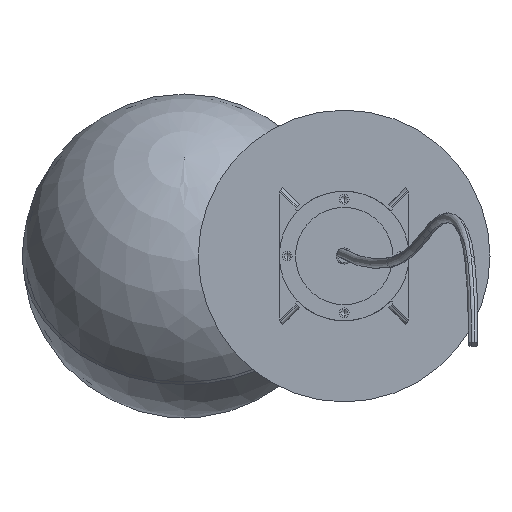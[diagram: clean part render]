
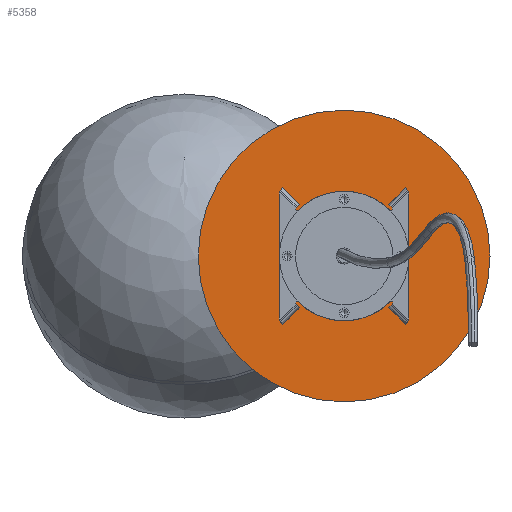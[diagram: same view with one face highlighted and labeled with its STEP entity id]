
A CAD part, front view. The second image highlights one B-rep face of the part: STEP entity #5358.
In plain terms, the highlighted planar face has unit normal (0, -1, 0) as drawn and (0, 1, 0) by its records, which use the part's own axes.
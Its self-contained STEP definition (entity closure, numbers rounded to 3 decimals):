
#172 = ORIENTED_EDGE ( 'NONE', *, *, #2223, .T. ) ;
#209 = DIRECTION ( 'NONE',  ( 0., 0., 1. ) ) ;
#242 = CIRCLE ( 'NONE', #6716, 7. ) ;
#436 = DIRECTION ( 'NONE',  ( 0., 1., 0. ) ) ;
#474 = DIRECTION ( 'NONE',  ( 0., 0., 1. ) ) ;
#481 = EDGE_CURVE ( 'NONE', #1131, #9960, #7671, .T. ) ;
#1073 = DIRECTION ( 'NONE',  ( 0., 0., 1. ) ) ;
#1111 = FACE_BOUND ( 'NONE', #3349, .T. ) ;
#1131 = VERTEX_POINT ( 'NONE', #4356 ) ;
#1170 = ORIENTED_EDGE ( 'NONE', *, *, #2969, .T. ) ;
#1681 = CARTESIAN_POINT ( 'NONE',  ( 0., 2., 7. ) ) ;
#1791 = CIRCLE ( 'NONE', #7585, 2.75 ) ;
#1973 = FACE_OUTER_BOUND ( 'NONE', #9264, .T. ) ;
#2061 = CARTESIAN_POINT ( 'NONE',  ( 0., 2., 90. ) ) ;
#2223 = EDGE_CURVE ( 'NONE', #5560, #10351, #9768, .T. ) ;
#2235 = DIRECTION ( 'NONE',  ( 0., 0., 1. ) ) ;
#2309 = ORIENTED_EDGE ( 'NONE', *, *, #481, .F. ) ;
#2634 = CARTESIAN_POINT ( 'NONE',  ( -35., 2., 2.75 ) ) ;
#2658 = CARTESIAN_POINT ( 'NONE',  ( 35., 2., 2.75 ) ) ;
#2969 = EDGE_CURVE ( 'NONE', #4323, #7097, #4830, .T. ) ;
#3159 = DIRECTION ( 'NONE',  ( 0., 1., 0. ) ) ;
#3160 = AXIS2_PLACEMENT_3D ( 'NONE', #7056, #10320, #9369 ) ;
#3349 = EDGE_LOOP ( 'NONE', ( #2309, #10081 ) ) ;
#3420 = ORIENTED_EDGE ( 'NONE', *, *, #4748, .F. ) ;
#3509 = CARTESIAN_POINT ( 'NONE',  ( 0., 2., -7. ) ) ;
#3554 = EDGE_LOOP ( 'NONE', ( #3420, #4235 ) ) ;
#3612 = DIRECTION ( 'NONE',  ( 0., 1., 0. ) ) ;
#3636 = DIRECTION ( 'NONE',  ( 0., -1., 0. ) ) ;
#3669 = CIRCLE ( 'NONE', #7744, 2.75 ) ;
#4039 = DIRECTION ( 'NONE',  ( 0., -1., 0. ) ) ;
#4137 = AXIS2_PLACEMENT_3D ( 'NONE', #6777, #436, #4549 ) ;
#4235 = ORIENTED_EDGE ( 'NONE', *, *, #7208, .F. ) ;
#4323 = VERTEX_POINT ( 'NONE', #1681 ) ;
#4356 = CARTESIAN_POINT ( 'NONE',  ( -35., 2., -2.75 ) ) ;
#4374 = FACE_BOUND ( 'NONE', #6526, .T. ) ;
#4549 = DIRECTION ( 'NONE',  ( 0., 0., 1. ) ) ;
#4695 = DIRECTION ( 'NONE',  ( 0., 1., 0. ) ) ;
#4748 = EDGE_CURVE ( 'NONE', #6059, #8953, #3669, .T. ) ;
#4830 = CIRCLE ( 'NONE', #8934, 7. ) ;
#4973 = EDGE_CURVE ( 'NONE', #10351, #5560, #6212, .T. ) ;
#5038 = CARTESIAN_POINT ( 'NONE',  ( 35., 2., 0. ) ) ;
#5273 = CARTESIAN_POINT ( 'NONE',  ( 0., 2., 0. ) ) ;
#5333 = CARTESIAN_POINT ( 'NONE',  ( -35., 2., 0. ) ) ;
#5358 = ADVANCED_FACE ( 'NONE', ( #4374, #8435, #1973, #1111 ), #7675, .T. ) ;
#5560 = VERTEX_POINT ( 'NONE', #10404 ) ;
#5682 = CARTESIAN_POINT ( 'NONE',  ( 0., 2., 0. ) ) ;
#6059 = VERTEX_POINT ( 'NONE', #8794 ) ;
#6131 = DIRECTION ( 'NONE',  ( 0., 0., 1. ) ) ;
#6136 = AXIS2_PLACEMENT_3D ( 'NONE', #6405, #3159, #2235 ) ;
#6173 = ORIENTED_EDGE ( 'NONE', *, *, #4973, .T. ) ;
#6212 = CIRCLE ( 'NONE', #3160, 90. ) ;
#6385 = ORIENTED_EDGE ( 'NONE', *, *, #6540, .T. ) ;
#6405 = CARTESIAN_POINT ( 'NONE',  ( -35., 2., 0. ) ) ;
#6526 = EDGE_LOOP ( 'NONE', ( #1170, #6385 ) ) ;
#6540 = EDGE_CURVE ( 'NONE', #7097, #4323, #242, .T. ) ;
#6716 = AXIS2_PLACEMENT_3D ( 'NONE', #7625, #3636, #209 ) ;
#6777 = CARTESIAN_POINT ( 'NONE',  ( 0., 2., 0. ) ) ;
#7056 = CARTESIAN_POINT ( 'NONE',  ( 0., 2., 0. ) ) ;
#7097 = VERTEX_POINT ( 'NONE', #3509 ) ;
#7208 = EDGE_CURVE ( 'NONE', #8953, #6059, #10489, .T. ) ;
#7585 = AXIS2_PLACEMENT_3D ( 'NONE', #5333, #4695, #6131 ) ;
#7625 = CARTESIAN_POINT ( 'NONE',  ( 0., 2., 0. ) ) ;
#7671 = CIRCLE ( 'NONE', #6136, 2.75 ) ;
#7675 = PLANE ( 'NONE',  #9641 ) ;
#7744 = AXIS2_PLACEMENT_3D ( 'NONE', #5038, #8302, #1073 ) ;
#7879 = EDGE_CURVE ( 'NONE', #9960, #1131, #1791, .T. ) ;
#7927 = AXIS2_PLACEMENT_3D ( 'NONE', #8626, #3612, #10013 ) ;
#8302 = DIRECTION ( 'NONE',  ( 0., 1., 0. ) ) ;
#8435 = FACE_BOUND ( 'NONE', #3554, .T. ) ;
#8540 = DIRECTION ( 'NONE',  ( 0., 1., 0. ) ) ;
#8626 = CARTESIAN_POINT ( 'NONE',  ( 35., 2., 0. ) ) ;
#8794 = CARTESIAN_POINT ( 'NONE',  ( 35., 2., -2.75 ) ) ;
#8934 = AXIS2_PLACEMENT_3D ( 'NONE', #5682, #4039, #10505 ) ;
#8953 = VERTEX_POINT ( 'NONE', #2658 ) ;
#9264 = EDGE_LOOP ( 'NONE', ( #172, #6173 ) ) ;
#9369 = DIRECTION ( 'NONE',  ( 0., 0., 1. ) ) ;
#9641 = AXIS2_PLACEMENT_3D ( 'NONE', #5273, #8540, #474 ) ;
#9768 = CIRCLE ( 'NONE', #4137, 90. ) ;
#9960 = VERTEX_POINT ( 'NONE', #2634 ) ;
#10013 = DIRECTION ( 'NONE',  ( 0., 0., 1. ) ) ;
#10081 = ORIENTED_EDGE ( 'NONE', *, *, #7879, .F. ) ;
#10320 = DIRECTION ( 'NONE',  ( 0., 1., 0. ) ) ;
#10351 = VERTEX_POINT ( 'NONE', #2061 ) ;
#10404 = CARTESIAN_POINT ( 'NONE',  ( 0., 2., -90. ) ) ;
#10489 = CIRCLE ( 'NONE', #7927, 2.75 ) ;
#10505 = DIRECTION ( 'NONE',  ( 0., 0., 1. ) ) ;
